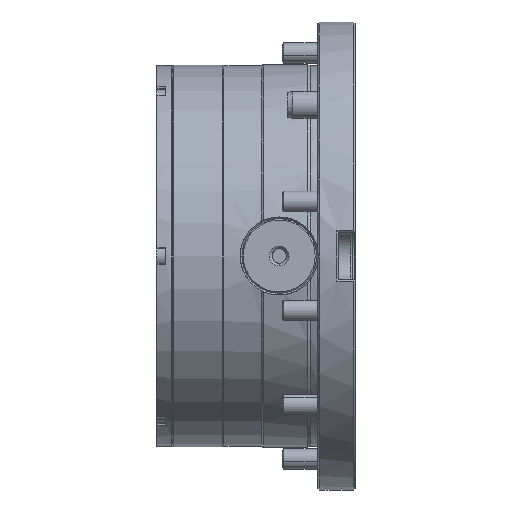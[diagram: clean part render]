
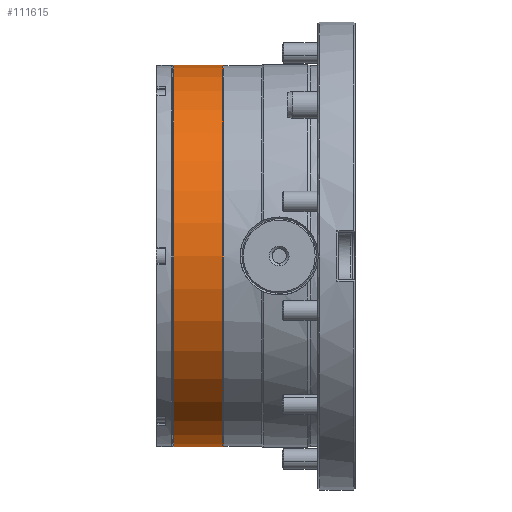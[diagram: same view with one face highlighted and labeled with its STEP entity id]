
A CAD part, front view. The second image highlights one B-rep face of the part: STEP entity #111615.
In plain terms, the highlighted cylindrical face has radius 56.3 mm (diameter 112.6 mm), a partial arc.
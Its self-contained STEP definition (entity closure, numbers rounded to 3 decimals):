
#1857 = AXIS2_PLACEMENT_3D ( 'NONE', #89655, #99538, #53972 ) ;
#2419 = VERTEX_POINT ( 'NONE', #129101 ) ;
#15548 = EDGE_CURVE ( 'NONE', #143443, #2419, #111875, .T. ) ;
#25834 = EDGE_LOOP ( 'NONE', ( #133816, #123000, #65579, #40795 ) ) ;
#29865 = CARTESIAN_POINT ( 'NONE',  ( 99.145, 0., 56.3 ) ) ;
#31074 = DIRECTION ( 'NONE',  ( 1., 0., 0. ) ) ;
#36955 = AXIS2_PLACEMENT_3D ( 'NONE', #103394, #148996, #92007 ) ;
#39183 = AXIS2_PLACEMENT_3D ( 'NONE', #79793, #59271, #93416 ) ;
#39626 = VECTOR ( 'NONE', #31074, 1000. ) ;
#40795 = ORIENTED_EDGE ( 'NONE', *, *, #99719, .F. ) ;
#43040 = CIRCLE ( 'NONE', #1857, 56.3 ) ;
#45243 = EDGE_CURVE ( 'NONE', #143443, #135390, #119165, .T. ) ;
#53972 = DIRECTION ( 'NONE',  ( 0., 0., -1. ) ) ;
#59212 = CARTESIAN_POINT ( 'NONE',  ( -39., 0., -56.3 ) ) ;
#59271 = DIRECTION ( 'NONE',  ( 1., 0., 0. ) ) ;
#65579 = ORIENTED_EDGE ( 'NONE', *, *, #114907, .T. ) ;
#66239 = CYLINDRICAL_SURFACE ( 'NONE', #36955, 56.3 ) ;
#70231 = VERTEX_POINT ( 'NONE', #59212 ) ;
#73941 = DIRECTION ( 'NONE',  ( 1., 0., 0. ) ) ;
#79793 = CARTESIAN_POINT ( 'NONE',  ( -53.451, 0., 0. ) ) ;
#80376 = LINE ( 'NONE', #146510, #39626 ) ;
#82748 = VECTOR ( 'NONE', #73941, 1000. ) ;
#83128 = CARTESIAN_POINT ( 'NONE',  ( -53.451, 0., 56.3 ) ) ;
#83581 = CARTESIAN_POINT ( 'NONE',  ( -53.451, 0., -56.3 ) ) ;
#89655 = CARTESIAN_POINT ( 'NONE',  ( -39., 0., 0. ) ) ;
#92007 = DIRECTION ( 'NONE',  ( 0., 0., -1. ) ) ;
#92736 = FACE_OUTER_BOUND ( 'NONE', #25834, .T. ) ;
#93416 = DIRECTION ( 'NONE',  ( 0., 0., -1. ) ) ;
#99538 = DIRECTION ( 'NONE',  ( 1., 0., 0. ) ) ;
#99719 = EDGE_CURVE ( 'NONE', #2419, #70231, #43040, .T. ) ;
#103394 = CARTESIAN_POINT ( 'NONE',  ( 99.145, 0., 0. ) ) ;
#111615 = ADVANCED_FACE ( 'NONE', ( #92736 ), #66239, .T. ) ;
#111875 = LINE ( 'NONE', #29865, #82748 ) ;
#114907 = EDGE_CURVE ( 'NONE', #135390, #70231, #80376, .T. ) ;
#119165 = CIRCLE ( 'NONE', #39183, 56.3 ) ;
#123000 = ORIENTED_EDGE ( 'NONE', *, *, #45243, .T. ) ;
#129101 = CARTESIAN_POINT ( 'NONE',  ( -39., 0., 56.3 ) ) ;
#133816 = ORIENTED_EDGE ( 'NONE', *, *, #15548, .F. ) ;
#135390 = VERTEX_POINT ( 'NONE', #83581 ) ;
#143443 = VERTEX_POINT ( 'NONE', #83128 ) ;
#146510 = CARTESIAN_POINT ( 'NONE',  ( 99.145, 0., -56.3 ) ) ;
#148996 = DIRECTION ( 'NONE',  ( 1., 0., 0. ) ) ;
